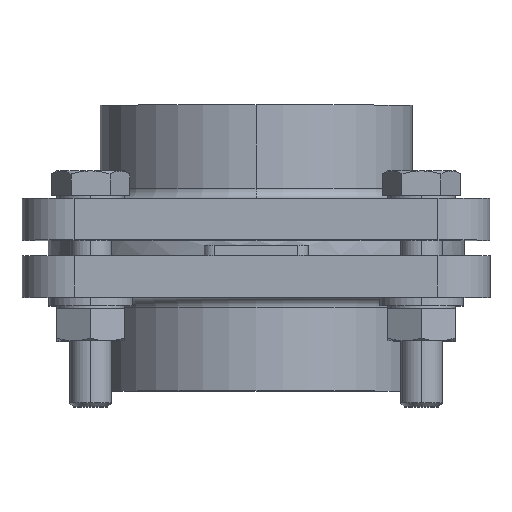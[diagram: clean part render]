
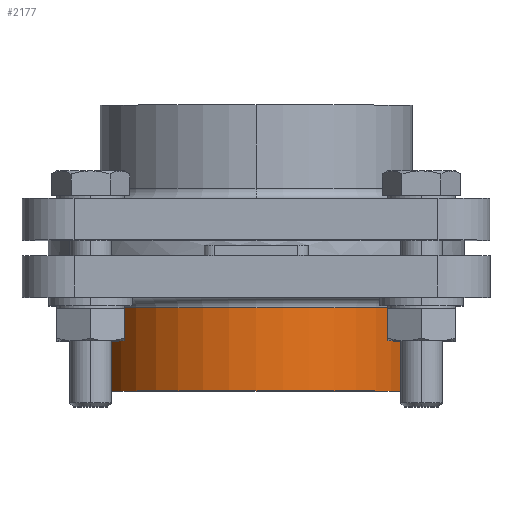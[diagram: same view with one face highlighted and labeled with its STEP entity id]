
A CAD part, top view. The second image highlights one B-rep face of the part: STEP entity #2177.
In plain terms, the highlighted cylindrical face has radius 30 mm (diameter 60 mm), a partial arc.
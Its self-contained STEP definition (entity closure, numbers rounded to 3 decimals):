
#2177 = ADVANCED_FACE ( 'NONE', ( #8573 ), #8578, .T. ) ;
#3348 = VERTEX_POINT ( 'NONE', #6112 ) ;
#3349 = VERTEX_POINT ( 'NONE', #6113 ) ;
#3353 = VERTEX_POINT ( 'NONE', #6117 ) ;
#3354 = VERTEX_POINT ( 'NONE', #6118 ) ;
#4773 = AXIS2_PLACEMENT_3D ( 'NONE', #10690, #10691, #10692 ) ;
#4774 = AXIS2_PLACEMENT_3D ( 'NONE', #10694, #10695, #10696 ) ;
#6112 = CARTESIAN_POINT ( 'NONE',  ( -44.119, -24.734, 3.465 ) ) ;
#6113 = CARTESIAN_POINT ( 'NONE',  ( 15.881, -24.734, 3.465 ) ) ;
#6117 = CARTESIAN_POINT ( 'NONE',  ( 15.881, -40.734, 3.465 ) ) ;
#6118 = CARTESIAN_POINT ( 'NONE',  ( -44.119, -40.734, 3.465 ) ) ;
#6624 = EDGE_CURVE ( 'NONE', #3354, #3348, #12744, .T. ) ;
#6627 = EDGE_CURVE ( 'NONE', #3353, #3349, #12751, .T. ) ;
#6634 = EDGE_CURVE ( 'NONE', #3354, #3353, #12763, .T. ) ;
#6636 = EDGE_CURVE ( 'NONE', #3348, #3349, #12760, .T. ) ;
#8573 = FACE_OUTER_BOUND ( 'NONE', #14160, .T. ) ;
#8578 = CYLINDRICAL_SURFACE ( 'NONE', #12165, 30. ) ;
#10656 = CARTESIAN_POINT ( 'NONE',  ( -44.119, -15.336, 3.465 ) ) ;
#10664 = DIRECTION ( 'NONE',  ( 0., 1., 0. ) ) ;
#10665 = CARTESIAN_POINT ( 'NONE',  ( 15.881, -15.336, 3.465 ) ) ;
#10670 = DIRECTION ( 'NONE',  ( 0., 1., 0. ) ) ;
#10690 = CARTESIAN_POINT ( 'NONE',  ( -14.119, -40.734, 3.465 ) ) ;
#10691 = DIRECTION ( 'NONE',  ( 0., 1., 0. ) ) ;
#10692 = DIRECTION ( 'NONE',  ( 1., 0., 0. ) ) ;
#10694 = CARTESIAN_POINT ( 'NONE',  ( -14.119, -24.734, 3.465 ) ) ;
#10695 = DIRECTION ( 'NONE',  ( 0., 1., 0. ) ) ;
#10696 = DIRECTION ( 'NONE',  ( 1., 0., 0. ) ) ;
#11863 = CARTESIAN_POINT ( 'NONE',  ( -14.119, -15.336, 3.465 ) ) ;
#11864 = DIRECTION ( 'NONE',  ( 0., 1., 0. ) ) ;
#11872 = DIRECTION ( 'NONE',  ( 1., 0., 0. ) ) ;
#12165 = AXIS2_PLACEMENT_3D ( 'NONE', #11863, #11864, #11872 ) ;
#12744 = LINE ( 'NONE', #10656, #12750 ) ;
#12750 = VECTOR ( 'NONE', #10664, 1000. ) ;
#12751 = LINE ( 'NONE', #10665, #12755 ) ;
#12755 = VECTOR ( 'NONE', #10670, 1000. ) ;
#12760 = CIRCLE ( 'NONE', #4774, 30. ) ;
#12763 = CIRCLE ( 'NONE', #4773, 30. ) ;
#14011 = ORIENTED_EDGE ( 'NONE', *, *, #6624, .F. ) ;
#14012 = ORIENTED_EDGE ( 'NONE', *, *, #6634, .T. ) ;
#14013 = ORIENTED_EDGE ( 'NONE', *, *, #6627, .T. ) ;
#14014 = ORIENTED_EDGE ( 'NONE', *, *, #6636, .F. ) ;
#14160 = EDGE_LOOP ( 'NONE', ( #14011, #14012, #14013, #14014 ) ) ;
